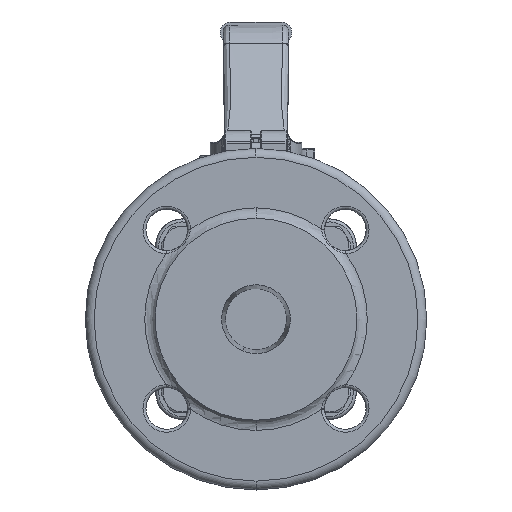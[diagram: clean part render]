
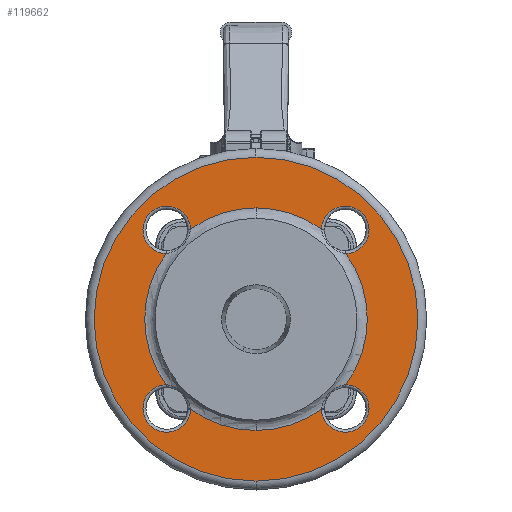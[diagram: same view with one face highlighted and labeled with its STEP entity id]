
A CAD part, left-side view. The second image highlights one B-rep face of the part: STEP entity #119662.
In plain terms, the highlighted planar face has unit normal (-1, 0, 0).
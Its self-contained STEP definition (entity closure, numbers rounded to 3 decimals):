
#6=CARTESIAN_POINT('',(-42.95,0.,0.));
#7=DIRECTION('',(1.,0.,0.));
#8=DIRECTION('',(0.,0.,1.));
#9=AXIS2_PLACEMENT_3D('',#6,#7,#8);
#21=CARTESIAN_POINT('',(-42.95,0.,0.));
#22=DIRECTION('',(1.,0.,0.));
#23=DIRECTION('',(0.,0.,-1.));
#24=AXIS2_PLACEMENT_3D('',#21,#22,#23);
#41659=CARTESIAN_POINT('',(-42.95,30.052,30.052));
#41660=DIRECTION('',(1.,0.,0.));
#41661=DIRECTION('',(0.,0.029,-1.));
#41662=AXIS2_PLACEMENT_3D('',#41659,#41660,#41661);
#41679=CARTESIAN_POINT('',(-42.95,0.,0.));
#41680=DIRECTION('',(1.,0.,0.));
#41681=DIRECTION('',(0.,0.808,-0.589));
#41682=AXIS2_PLACEMENT_3D('',#41679,#41680,#41681);
#41684=CARTESIAN_POINT('',(-42.95,0.,0.));
#41685=DIRECTION('',(1.,0.,0.));
#41686=DIRECTION('',(0.,0.,-1.));
#41687=AXIS2_PLACEMENT_3D('',#41684,#41685,#41686);
#41689=CARTESIAN_POINT('',(-42.95,0.,0.));
#41690=DIRECTION('',(-1.,0.,0.));
#41691=DIRECTION('',(0.,0.,-1.));
#41692=AXIS2_PLACEMENT_3D('',#41689,#41690,#41691);
#41694=CARTESIAN_POINT('',(-42.95,0.,0.));
#41695=DIRECTION('',(-1.,0.,0.));
#41696=DIRECTION('',(0.,-0.808,-0.589));
#41697=AXIS2_PLACEMENT_3D('',#41694,#41695,#41696);
#41699=CARTESIAN_POINT('',(-42.95,0.,0.));
#41700=DIRECTION('',(-1.,0.,0.));
#41701=DIRECTION('',(0.,-0.589,0.808));
#41702=AXIS2_PLACEMENT_3D('',#41699,#41700,#41701);
#41704=CARTESIAN_POINT('',(-42.95,0.,0.));
#41705=DIRECTION('',(1.,0.,0.));
#41706=DIRECTION('',(0.,0.589,0.808));
#41707=AXIS2_PLACEMENT_3D('',#41704,#41705,#41706);
#41742=CARTESIAN_POINT('',(-42.95,-22.055,
30.284));
#41756=CARTESIAN_POINT('',(-42.95,-30.052,30.052));
#41757=DIRECTION('',(1.,0.,0.));
#41758=DIRECTION('',(0.,1.,0.029));
#41759=AXIS2_PLACEMENT_3D('',#41756,#41757,#41758);
#41776=CARTESIAN_POINT('',(-42.95,-30.284,
22.055));
#41926=CARTESIAN_POINT('',(-42.95,-30.284,
-22.055));
#41985=CARTESIAN_POINT('',(-42.95,-30.052,-30.052));
#41986=DIRECTION('',(1.,0.,0.));
#41987=DIRECTION('',(0.,-0.029,1.));
#41988=AXIS2_PLACEMENT_3D('',#41985,#41986,#41987);
#41994=CARTESIAN_POINT('',(-42.95,-22.055,
-30.284));
#42090=CARTESIAN_POINT('',(-42.95,22.055,
-30.284));
#42104=CARTESIAN_POINT('',(-42.95,30.052,-30.052));
#42105=DIRECTION('',(1.,0.,0.));
#42106=DIRECTION('',(0.,-1.,-0.029));
#42107=AXIS2_PLACEMENT_3D('',#42104,#42105,#42106);
#42124=CARTESIAN_POINT('',(-42.95,30.284,
-22.055));
#42274=CARTESIAN_POINT('',(-42.95,30.284,
22.055));
#42322=CARTESIAN_POINT('',(-42.95,22.055,
30.284));
#42357=CARTESIAN_POINT('',(-42.95,0.,-54.5));
#42358=CARTESIAN_POINT('',(-42.95,0.,54.5));
#42359=VERTEX_POINT('',#42357);
#42360=VERTEX_POINT('',#42358);
#43777=VERTEX_POINT('',#42322);
#43780=VERTEX_POINT('',#42274);
#43794=VERTEX_POINT('',#41776);
#43797=VERTEX_POINT('',#41742);
#43807=VERTEX_POINT('',#41994);
#43811=VERTEX_POINT('',#41926);
#43827=VERTEX_POINT('',#42124);
#43830=VERTEX_POINT('',#42090);
#43840=CARTESIAN_POINT('',(-42.95,0.,37.464));
#43841=VERTEX_POINT('',#43840);
#43842=CARTESIAN_POINT('',(-42.95,0.,-37.464));
#43843=VERTEX_POINT('',#43842);
#119632=CARTESIAN_POINT('',(-42.95,0.,0.));
#119633=DIRECTION('',(-1.,0.,0.));
#119634=DIRECTION('',(0.,0.,1.));
#119635=AXIS2_PLACEMENT_3D('',#119632,#119633,#119634);
#119636=PLANE('',#119635);
#119637=ORIENTED_EDGE('',*,*,#51007,.T.);
#119638=ORIENTED_EDGE('',*,*,#50992,.T.);
#119639=EDGE_LOOP('',(#119637,#119638));
#119640=FACE_OUTER_BOUND('',#119639,.F.);
#119641=ORIENTED_EDGE('',*,*,#119620,.F.);
#119643=ORIENTED_EDGE('',*,*,#119642,.F.);
#119645=ORIENTED_EDGE('',*,*,#119644,.F.);
#119647=ORIENTED_EDGE('',*,*,#119646,.F.);
#119649=ORIENTED_EDGE('',*,*,#119648,.T.);
#119651=ORIENTED_EDGE('',*,*,#119650,.F.);
#119653=ORIENTED_EDGE('',*,*,#119652,.T.);
#119655=ORIENTED_EDGE('',*,*,#119654,.F.);
#119657=ORIENTED_EDGE('',*,*,#119656,.T.);
#119659=ORIENTED_EDGE('',*,*,#119658,.F.);
#119660=EDGE_LOOP('',(#119641,#119643,#119645,#119647,#119649,#119651,#119653,
#119655,#119657,#119659));
#119661=FACE_BOUND('',#119660,.F.);
#119662=ADVANCED_FACE('',(#119640,#119661),#119636,.T.);
#10=CIRCLE('',#9,54.5);
#25=CIRCLE('',#24,54.5);
#41663=CIRCLE('',#41662,8.);
#41683=CIRCLE('',#41682,37.464);
#41688=CIRCLE('',#41687,37.464);
#41693=CIRCLE('',#41692,37.464);
#41698=CIRCLE('',#41697,37.464);
#41703=CIRCLE('',#41702,37.464);
#41708=CIRCLE('',#41707,37.464);
#41760=CIRCLE('',#41759,8.);
#41989=CIRCLE('',#41988,8.);
#42108=CIRCLE('',#42107,8.);
#50992=EDGE_CURVE('',#42360,#42359,#10,.T.);
#51007=EDGE_CURVE('',#42359,#42360,#25,.T.);
#119620=EDGE_CURVE('',#43780,#43777,#41663,.T.);
#119642=EDGE_CURVE('',#43827,#43780,#41683,.T.);
#119644=EDGE_CURVE('',#43830,#43827,#42108,.T.);
#119646=EDGE_CURVE('',#43843,#43830,#41688,.T.);
#119648=EDGE_CURVE('',#43843,#43807,#41693,.T.);
#119650=EDGE_CURVE('',#43811,#43807,#41989,.T.);
#119652=EDGE_CURVE('',#43811,#43794,#41698,.T.);
#119654=EDGE_CURVE('',#43797,#43794,#41760,.T.);
#119656=EDGE_CURVE('',#43797,#43841,#41703,.T.);
#119658=EDGE_CURVE('',#43777,#43841,#41708,.T.);
